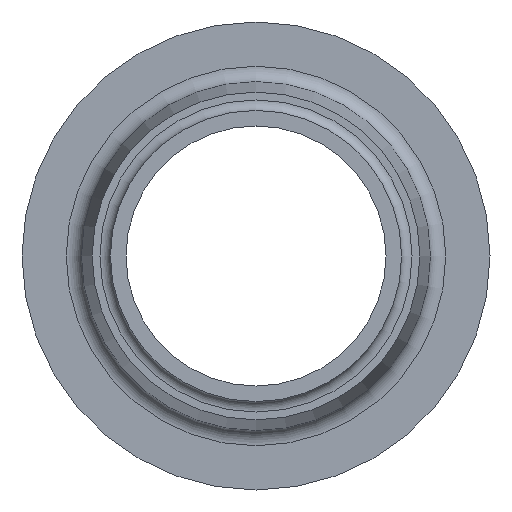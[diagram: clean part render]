
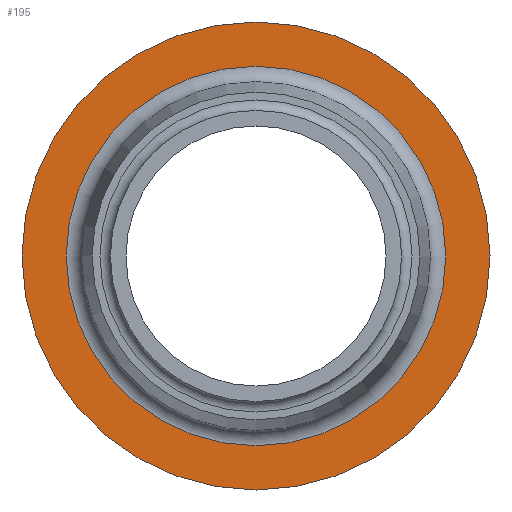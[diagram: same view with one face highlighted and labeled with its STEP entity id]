
A CAD part, left-side view. The second image highlights one B-rep face of the part: STEP entity #195.
In plain terms, the highlighted planar face has unit normal (-1, 0, 0).
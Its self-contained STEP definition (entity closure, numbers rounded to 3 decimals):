
#161=CARTESIAN_POINT('',(50.,36.486,0.0));
#162=VERTEX_POINT('',#161);
#163=CARTESIAN_POINT('',(50.0,0.,0.0));
#164=DIRECTION('',(1.0,0.0,0.0));
#165=DIRECTION('',(0.0,1.0,0.0));
#166=AXIS2_PLACEMENT_3D('',#163,#164,#165);
#167=CIRCLE('',#166,36.486);
#168=EDGE_CURVE('',#162,#162,#167,.T.);
#176=CARTESIAN_POINT('',(50.0,40.743,0.0));
#177=DIRECTION('',(-1.0,0.0,0.0));
#178=DIRECTION('',(0.0,0.0,1.0));
#179=AXIS2_PLACEMENT_3D('',#176,#177,#178);
#180=PLANE('',#179);
#181=CARTESIAN_POINT('',(50.0,45.0,0.0));
#182=VERTEX_POINT('',#181);
#183=CARTESIAN_POINT('',(50.,0.,0.0));
#184=DIRECTION('',(1.0,0.0,0.0));
#185=DIRECTION('',(0.0,1.0,0.0));
#186=AXIS2_PLACEMENT_3D('',#183,#184,#185);
#187=CIRCLE('',#186,45.);
#188=EDGE_CURVE('',#182,#182,#187,.T.);
#189=ORIENTED_EDGE('',*,*,#188,.F.);
#190=EDGE_LOOP('',(#189));
#191=FACE_OUTER_BOUND('',#190,.T.);
#192=ORIENTED_EDGE('',*,*,#168,.T.);
#193=EDGE_LOOP('',(#192));
#194=FACE_BOUND('',#193,.T.);
#195=ADVANCED_FACE('',(#191,#194),#180,.T.);
